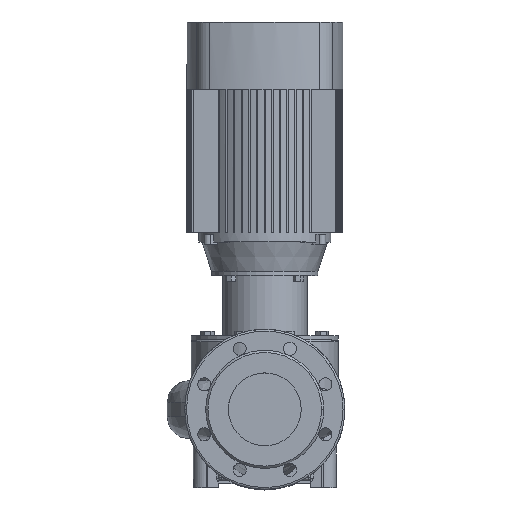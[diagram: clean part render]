
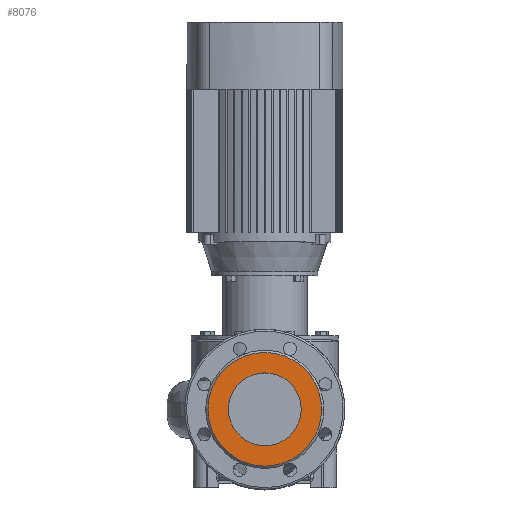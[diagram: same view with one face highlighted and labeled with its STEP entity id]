
A CAD part, top view. The second image highlights one B-rep face of the part: STEP entity #8076.
In plain terms, the highlighted planar face has unit normal (0, 0, 1).
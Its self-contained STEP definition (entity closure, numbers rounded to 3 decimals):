
#690 = VERTEX_POINT ( 'NONE', #13902 ) ;
#1163 = FACE_OUTER_BOUND ( 'NONE', #3452, .T. ) ;
#1313 = AXIS2_PLACEMENT_3D ( 'NONE', #16803, #25434, #6025 ) ;
#2172 = CARTESIAN_POINT ( 'NONE',  ( -50., 0., 225. ) ) ;
#2956 = ORIENTED_EDGE ( 'NONE', *, *, #24156, .T. ) ;
#3310 = CARTESIAN_POINT ( 'NONE',  ( 0., 0., 225. ) ) ;
#3369 = AXIS2_PLACEMENT_3D ( 'NONE', #10268, #14519, #18628 ) ;
#3429 = DIRECTION ( 'NONE',  ( 0., 0., -1. ) ) ;
#3452 = EDGE_LOOP ( 'NONE', ( #24036, #2956 ) ) ;
#5014 = AXIS2_PLACEMENT_3D ( 'NONE', #3310, #11388, #7689 ) ;
#5605 = VERTEX_POINT ( 'NONE', #19642 ) ;
#6025 = DIRECTION ( 'NONE',  ( 1., 0., 0. ) ) ;
#6101 = VERTEX_POINT ( 'NONE', #2172 ) ;
#7689 = DIRECTION ( 'NONE',  ( 1., 0., 0. ) ) ;
#7716 = EDGE_CURVE ( 'NONE', #690, #5605, #17401, .T. ) ;
#8076 = ADVANCED_FACE ( 'NONE', ( #10230, #1163 ), #20714, .F. ) ;
#8914 = EDGE_CURVE ( 'NONE', #6101, #15300, #12618, .T. ) ;
#10230 = FACE_BOUND ( 'NONE', #25551, .T. ) ;
#10268 = CARTESIAN_POINT ( 'NONE',  ( 0., 0., 225. ) ) ;
#11041 = CARTESIAN_POINT ( 'NONE',  ( 0., 0., 225. ) ) ;
#11388 = DIRECTION ( 'NONE',  ( 0., 0., 1. ) ) ;
#12005 = AXIS2_PLACEMENT_3D ( 'NONE', #11041, #21952, #24084 ) ;
#12618 = CIRCLE ( 'NONE', #1313, 50. ) ;
#12918 = CIRCLE ( 'NONE', #12005, 78. ) ;
#13629 = EDGE_CURVE ( 'NONE', #15300, #6101, #22679, .T. ) ;
#13902 = CARTESIAN_POINT ( 'NONE',  ( -78., 0., 225. ) ) ;
#14192 = ORIENTED_EDGE ( 'NONE', *, *, #13629, .F. ) ;
#14205 = DIRECTION ( 'NONE',  ( -1., 0., 0. ) ) ;
#14519 = DIRECTION ( 'NONE',  ( 0., 0., 1. ) ) ;
#15300 = VERTEX_POINT ( 'NONE', #17030 ) ;
#16803 = CARTESIAN_POINT ( 'NONE',  ( 0., 0., 225. ) ) ;
#17030 = CARTESIAN_POINT ( 'NONE',  ( 50., 0., 225. ) ) ;
#17401 = CIRCLE ( 'NONE', #3369, 78. ) ;
#18628 = DIRECTION ( 'NONE',  ( -1., 0., 0. ) ) ;
#19642 = CARTESIAN_POINT ( 'NONE',  ( 78., 0., 225. ) ) ;
#20714 = PLANE ( 'NONE',  #23251 ) ;
#21952 = DIRECTION ( 'NONE',  ( 0., 0., 1. ) ) ;
#22679 = CIRCLE ( 'NONE', #5014, 50. ) ;
#22700 = CARTESIAN_POINT ( 'NONE',  ( 0., 78., 225. ) ) ;
#23251 = AXIS2_PLACEMENT_3D ( 'NONE', #22700, #3429, #14205 ) ;
#24036 = ORIENTED_EDGE ( 'NONE', *, *, #7716, .T. ) ;
#24084 = DIRECTION ( 'NONE',  ( -1., 0., 0. ) ) ;
#24156 = EDGE_CURVE ( 'NONE', #5605, #690, #12918, .T. ) ;
#25434 = DIRECTION ( 'NONE',  ( 0., 0., 1. ) ) ;
#25473 = ORIENTED_EDGE ( 'NONE', *, *, #8914, .F. ) ;
#25551 = EDGE_LOOP ( 'NONE', ( #14192, #25473 ) ) ;
